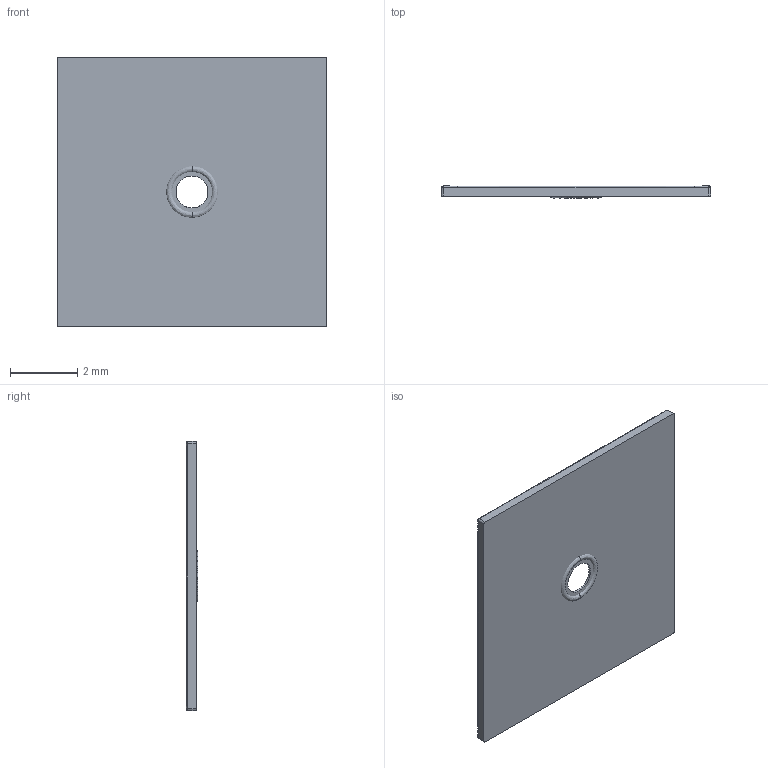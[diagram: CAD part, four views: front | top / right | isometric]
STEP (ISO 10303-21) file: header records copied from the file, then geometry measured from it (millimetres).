
FILE_DESCRIPTION(/* description */ (''),/* implementation_level */ '2;1');
FILE_NAME(/* name */ 'UNPD08008030',/* time_stamp */ '2018-12-10T15:19:28+01:00',/* author */ (''),/* organization */ (''),/* preprocessor_version */ 'ST-DEVELOPER v15',/* originating_system */ '',/* authorisation */ '');
FILE_SCHEMA (('AUTOMOTIVE_DESIGN'));
Length unit declared in the file: centimetre
Products named in the file (1): Document
Bounding box: 8 x 0.35 x 8 mm (x, y, z)
Surface area: 137.3 mm2 (no closed solid volume)
Topology: 0 solids, 1 shells, 42 faces, 100 edges, 52 vertices
Faces by surface type: bspline 36, plane 6
Entity records: 2297 total; most frequent: CARTESIAN_POINT 1776, ORIENTED_EDGE 180, EDGE_CURVE 92, VERTEX_POINT 52, EDGE_LOOP 44, ADVANCED_FACE 42, FACE_OUTER_BOUND 42, B_SPLINE_CURVE_WITH_KNOTS 20
